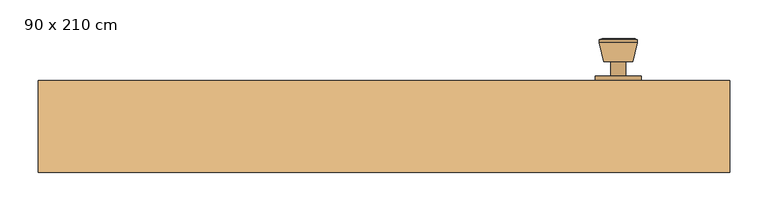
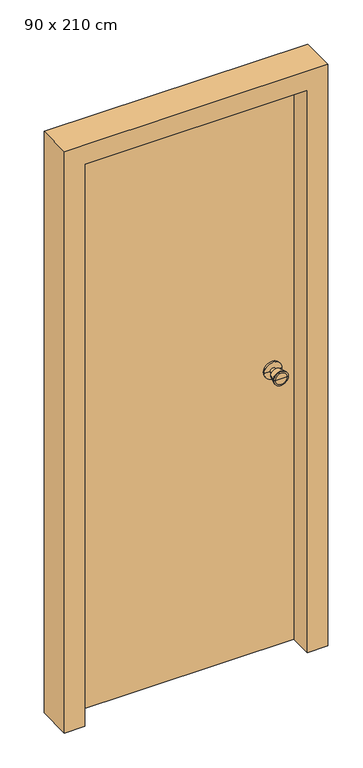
"""IFC4 building model written with IfcOpenShell, lengths in millimetres: door geometry, 單開-矩形- (1) : 90 x 210 cm."""

from ifc_helpers import new_model, si_unit, frame, origin, origin_with_axes, place, context, project, spatial, polyline, circle_curve, outline, extrude, faceted_brep, source, transform, mapped, element, save
from ifc_brep_helpers import plane_surface, cylinder_surface, revolved_surface, advanced_brep


def door_90_x_210_cm_cb2f5c37(model_context):
    return source(origin(), model_context, "Body", "SolidModel", [
        advanced_brep(
        [(335.0, -144.0, 1000.0), (335.0, -150.0, 1000.0), (275.0, -150.0, 1000.0), (275.0, -144.0, 1000.0), (315.0, -144.0, 1000.0), (295.0, -144.0, 1000.0), (315.0, -125.0, 1000.0), (295.0, -125.0, 1000.0), (323.6, -125.0, 1000.0), (286.4, -125.0, 1000.0), (330.0, -100.3, 1000.0), (280.0, -100.3, 1000.0), (330.0, -96.8, 1000.0), (280.0, -96.8, 1000.0), (325.5, -95.0, 1000.0), (284.5, -95.0, 1000.0), (305.0, -95.0, 1000.0), (305.0, -150.0, 1000.0)],
        [
            (0, 1),
            (1, 2, circle_curve(frame((305.0, -150.0, 1000.0), z_axis=(0.0, 1.0, 0.0), x_axis=(-1.0, 0.0, 0.0)), 30.0)),
            (2, 3),
            (3, 0, circle_curve(frame((305.0, -144.0, 1000.0), z_axis=(0.0, -1.0, 0.0), x_axis=(-1.0, 0.0, 0.0)), 30.0)),
            (2, 1, circle_curve(frame((305.0, -150.0, 1000.0), z_axis=(0.0, 1.0, 0.0), x_axis=(-1.0, 0.0, 0.0)), 30.0)),
            (0, 3, circle_curve(frame((305.0, -144.0, 1000.0), z_axis=(0.0, -1.0, 0.0), x_axis=(-1.0, 0.0, 0.0)), 30.0)),
            (4, 0),
            (3, 5),
            (5, 4, circle_curve(frame((305.0, -144.0, 1000.0), z_axis=(0.0, -1.0, 0.0), x_axis=(-1.0, 0.0, 0.0)), 10.0)),
            (4, 5, circle_curve(frame((305.0, -144.0, 1000.0), z_axis=(0.0, -1.0, 0.0), x_axis=(-1.0, 0.0, 0.0)), 10.0)),
            (6, 4),
            (5, 7),
            (7, 6, circle_curve(frame((305.0, -125.0, 1000.0), z_axis=(0.0, -1.0, 0.0), x_axis=(-1.0, 0.0, 0.0)), 10.0)),
            (6, 7, circle_curve(frame((305.0, -125.0, 1000.0), z_axis=(0.0, -1.0, 0.0), x_axis=(-1.0, 0.0, 0.0)), 10.0)),
            (8, 6),
            (7, 9),
            (9, 8, circle_curve(frame((305.0, -125.0, 1000.0), z_axis=(0.0, -1.0, 0.0), x_axis=(-1.0, 0.0, 0.0)), 18.6)),
            (8, 9, circle_curve(frame((305.0, -125.0, 1000.0), z_axis=(0.0, -1.0, 0.0), x_axis=(-1.0, 0.0, 0.0)), 18.6)),
            (10, 8),
            (9, 11),
            (11, 10, circle_curve(frame((305.0, -100.3, 1000.0), z_axis=(0.0, -1.0, 0.0), x_axis=(-1.0, 0.0, 0.0)), 25.0)),
            (10, 11, circle_curve(frame((305.0, -100.3, 1000.0), z_axis=(0.0, -1.0, 0.0), x_axis=(-1.0, 0.0, 0.0)), 25.0)),
            (12, 10),
            (11, 13),
            (13, 12, circle_curve(frame((305.0, -96.8, 1000.0), z_axis=(0.0, -1.0, 0.0), x_axis=(-1.0, 0.0, 0.0)), 25.0)),
            (12, 13, circle_curve(frame((305.0, -96.8, 1000.0), z_axis=(0.0, -1.0, 0.0), x_axis=(-1.0, 0.0, 0.0)), 25.0)),
            (14, 12),
            (13, 15),
            (15, 14, circle_curve(frame((305.0, -95.0, 1000.0), z_axis=(0.0, -1.0, 0.0), x_axis=(-1.0, 0.0, 0.0)), 20.5)),
            (14, 15, circle_curve(frame((305.0, -95.0, 1000.0), z_axis=(0.0, -1.0, 0.0), x_axis=(-1.0, 0.0, 0.0)), 20.5)),
            (16, 14),
            (15, 16),
            (1, 17),
            (17, 2),
        ],
        [
            cylinder_surface(frame((305.0, -210.0, 1000.0), z_axis=(0.0, 1.0, 0.0), x_axis=(-1.0, 0.0, 0.0)), 30.0),
            plane_surface(frame((305.0, -144.0, 1000.0), z_axis=(0.0, 1.0, 0.0), x_axis=(-1.0, 0.0, 0.0))),
            cylinder_surface(frame((305.0, -210.0, 1000.0), z_axis=(0.0, 1.0, 0.0), x_axis=(-1.0, 0.0, 0.0)), 10.0),
            plane_surface(frame((305.0, -125.0, 1000.0), z_axis=(0.0, -1.0, 0.0), x_axis=(-1.0, 0.0, 0.0))),
            revolved_surface(polyline([(286.4, -125.0, 1000.0), (280.0, -100.3, 1000.0)]), (305.0, -210.0, 1000.0), (0.0, 1.0, 0.0)),
            cylinder_surface(frame((305.0, -210.0, 1000.0), z_axis=(0.0, 1.0, 0.0), x_axis=(-1.0, 0.0, 0.0)), 25.0),
            revolved_surface(polyline([(280.0, -96.8, 1000.0), (284.5, -95.0, 1000.0)]), (305.0, -210.0, 1000.0), (0.0, 1.0, 0.0)),
            plane_surface(frame((305.0, -95.0, 1000.0), z_axis=(0.0, 1.0, 0.0), x_axis=(-1.0, 0.0, 0.0))),
            plane_surface(frame((305.0, -150.0, 1000.0), z_axis=(0.0, -1.0, 0.0), x_axis=(-1.0, 0.0, 0.0))),
        ],
        [
            (0, [[1, 2, 3, 4]]),
            (0, [[-3, 5, -1, 6]]),
            (1, [[7, -4, 8, 9]]),
            (1, [[-8, -6, -7, 10]]),
            (2, [[11, -9, 12, 13]]),
            (2, [[-12, -10, -11, 14]]),
            (3, [[15, -13, 16, 17]]),
            (3, [[-16, -14, -15, 18]]),
            (4, [[19, -17, 20, 21]]),
            (4, [[-20, -18, -19, 22]]),
            (5, [[23, -21, 24, 25]]),
            (5, [[-24, -22, -23, 26]]),
            (6, [[27, -25, 28, 29]]),
            (6, [[-28, -26, -27, 30]]),
            (7, [[31, -29, 32]]),
            (7, [[-32, -30, -31]]),
            (8, [[33, 34, -2]]),
            (8, [[-34, -33, -5]]),
        ],
    ),
        advanced_brep(
        [(335.0, -196.0, 1000.0), (275.0, -196.0, 1000.0), (275.0, -190.0, 1000.0), (335.0, -190.0, 1000.0), (315.0, -196.0, 1000.0), (295.0, -196.0, 1000.0), (315.0, -215.0, 1000.0), (295.0, -215.0, 1000.0), (323.6, -215.0, 1000.0), (286.4, -215.0, 1000.0), (330.0, -239.7, 1000.0), (280.0, -239.7, 1000.0), (330.0, -243.2, 1000.0), (280.0, -243.2, 1000.0), (325.5, -245.0, 1000.0), (284.5, -245.0, 1000.0), (305.0, -245.0, 1000.0), (305.0, -190.0, 1000.0)],
        [
            (0, 1, circle_curve(frame((305.0, -196.0, 1000.0), z_axis=(0.0, 1.0, 0.0), x_axis=(-1.0, 0.0, 0.0)), 30.0)),
            (1, 2),
            (2, 3, circle_curve(frame((305.0, -190.0, 1000.0), z_axis=(0.0, -1.0, 0.0), x_axis=(-1.0, 0.0, 0.0)), 30.0)),
            (3, 0),
            (1, 0, circle_curve(frame((305.0, -196.0, 1000.0), z_axis=(0.0, 1.0, 0.0), x_axis=(-1.0, 0.0, 0.0)), 30.0)),
            (3, 2, circle_curve(frame((305.0, -190.0, 1000.0), z_axis=(0.0, -1.0, 0.0), x_axis=(-1.0, 0.0, 0.0)), 30.0)),
            (4, 5, circle_curve(frame((305.0, -196.0, 1000.0), z_axis=(0.0, 1.0, 0.0), x_axis=(-1.0, 0.0, 0.0)), 10.0)),
            (5, 1),
            (0, 4),
            (5, 4, circle_curve(frame((305.0, -196.0, 1000.0), z_axis=(0.0, 1.0, 0.0), x_axis=(-1.0, 0.0, 0.0)), 10.0)),
            (6, 7, circle_curve(frame((305.0, -215.0, 1000.0), z_axis=(0.0, 1.0, 0.0), x_axis=(-1.0, 0.0, 0.0)), 10.0)),
            (7, 5),
            (4, 6),
            (7, 6, circle_curve(frame((305.0, -215.0, 1000.0), z_axis=(0.0, 1.0, 0.0), x_axis=(-1.0, 0.0, 0.0)), 10.0)),
            (8, 9, circle_curve(frame((305.0, -215.0, 1000.0), z_axis=(0.0, 1.0, 0.0), x_axis=(-1.0, 0.0, 0.0)), 18.6)),
            (9, 7),
            (6, 8),
            (9, 8, circle_curve(frame((305.0, -215.0, 1000.0), z_axis=(0.0, 1.0, 0.0), x_axis=(-1.0, 0.0, 0.0)), 18.6)),
            (10, 11, circle_curve(frame((305.0, -239.7, 1000.0), z_axis=(0.0, 1.0, 0.0), x_axis=(-1.0, 0.0, 0.0)), 25.0)),
            (11, 9),
            (8, 10),
            (11, 10, circle_curve(frame((305.0, -239.7, 1000.0), z_axis=(0.0, 1.0, 0.0), x_axis=(-1.0, 0.0, 0.0)), 25.0)),
            (12, 13, circle_curve(frame((305.0, -243.2, 1000.0), z_axis=(0.0, 1.0, 0.0), x_axis=(-1.0, 0.0, 0.0)), 25.0)),
            (13, 11),
            (10, 12),
            (13, 12, circle_curve(frame((305.0, -243.2, 1000.0), z_axis=(0.0, 1.0, 0.0), x_axis=(-1.0, 0.0, 0.0)), 25.0)),
            (14, 15, circle_curve(frame((305.0, -245.0, 1000.0), z_axis=(0.0, 1.0, 0.0), x_axis=(-1.0, 0.0, 0.0)), 20.5)),
            (15, 13),
            (12, 14),
            (15, 14, circle_curve(frame((305.0, -245.0, 1000.0), z_axis=(0.0, 1.0, 0.0), x_axis=(-1.0, 0.0, 0.0)), 20.5)),
            (16, 15),
            (14, 16),
            (2, 17),
            (17, 3),
        ],
        [
            cylinder_surface(frame((305.0, -130.0, 1000.0), z_axis=(0.0, -1.0, 0.0), x_axis=(-1.0, 0.0, 0.0)), 30.0),
            plane_surface(frame((305.0, -196.0, 1000.0), z_axis=(0.0, -1.0, 0.0), x_axis=(-1.0, 0.0, 0.0))),
            cylinder_surface(frame((305.0, -130.0, 1000.0), z_axis=(0.0, -1.0, 0.0), x_axis=(-1.0, 0.0, 0.0)), 10.0),
            plane_surface(frame((305.0, -215.0, 1000.0), z_axis=(0.0, 1.0, 0.0), x_axis=(-1.0, 0.0, 0.0))),
            revolved_surface(polyline([(286.4, -215.0, 1000.0), (280.0, -239.7, 1000.0)]), (305.0, -130.0, 1000.0), (0.0, -1.0, 0.0)),
            cylinder_surface(frame((305.0, -130.0, 1000.0), z_axis=(0.0, -1.0, 0.0), x_axis=(-1.0, 0.0, 0.0)), 25.0),
            revolved_surface(polyline([(280.0, -243.2, 1000.0), (284.5, -245.0, 1000.0)]), (305.0, -130.0, 1000.0), (0.0, -1.0, 0.0)),
            plane_surface(frame((305.0, -245.0, 1000.0), z_axis=(0.0, -1.0, 0.0), x_axis=(-1.0, 0.0, 0.0))),
            plane_surface(frame((305.0, -190.0, 1000.0), z_axis=(0.0, 1.0, 0.0), x_axis=(-1.0, 0.0, 0.0))),
        ],
        [
            (0, [[1, 2, 3, 4]]),
            (0, [[5, -4, 6, -2]]),
            (1, [[7, 8, -1, 9]]),
            (1, [[10, -9, -5, -8]]),
            (2, [[11, 12, -7, 13]]),
            (2, [[14, -13, -10, -12]]),
            (3, [[15, 16, -11, 17]]),
            (3, [[18, -17, -14, -16]]),
            (4, [[19, 20, -15, 21]]),
            (4, [[22, -21, -18, -20]]),
            (5, [[23, 24, -19, 25]]),
            (5, [[26, -25, -22, -24]]),
            (6, [[27, 28, -23, 29]]),
            (6, [[30, -29, -26, -28]]),
            (7, [[31, -27, 32]]),
            (7, [[-32, -30, -31]]),
            (8, [[-3, 33, 34]]),
            (8, [[-6, -34, -33]]),
        ],
    ),
        extrude(outline(polyline([(400.0, -190.0), (-400.0, -190.0), (-400.0, -150.0), (400.0, -150.0), (400.0, -190.0)])), origin_with_axes(), (0.0, 0.0, 1.0), 2050.0),
        faceted_brep([(400.0, -150.0, 0.0), (450.0, -150.0, 0.0), (450.0, -270.0, 0.0), (380.0, -270.0, 0.0), (380.0, -190.0, 0.0), (400.0, -190.0, 0.0), (400.0, -150.0, 2050.0), (-400.0, -150.0, 2050.0), (-400.0, -150.0, 0.0), (-450.0, -150.0, 0.0), (-450.0, -150.0, 2100.0), (450.0, -150.0, 2100.0), (450.0, -270.0, 2100.0), (-450.0, -270.0, 2100.0), (-450.0, -270.0, 0.0), (-380.0, -270.0, 0.0), (-380.0, -270.0, 2030.0), (380.0, -270.0, 2030.0), (380.0, -190.0, 2030.0), (-380.0, -190.0, 2030.0), (-380.0, -190.0, 0.0), (-400.0, -190.0, 0.0), (-400.0, -190.0, 2050.0), (400.0, -190.0, 2050.0)], [[[0, 1, 2, 3, 4, 5]], [[1, 0, 6, 7, 8, 9, 10, 11]], [[2, 1, 11, 12]], [[3, 2, 12, 13, 14, 15, 16, 17]], [[4, 3, 17, 18]], [[5, 4, 18, 19, 20, 21, 22, 23]], [[0, 5, 23, 6]], [[12, 11, 10, 13]], [[18, 17, 16, 19]], [[6, 23, 22, 7]], [[8, 21, 20, 15, 14, 9]], [[13, 10, 9, 14]], [[19, 16, 15, 20]], [[7, 22, 21, 8]]]),
    ])


if __name__ == "__main__":
    model = new_model("IFC4")
    model_context = context("Model", 3, world=origin())
    ifc_project = project(units=[si_unit("LENGTHUNIT", "METRE", prefix="MILLI")], contexts=[model_context])
    site = spatial("IfcSite", under=ifc_project)
    building = spatial("IfcBuilding", under=site)
    placement = place(None, origin())
    door_90_x_210_cm_shape = door_90_x_210_cm_cb2f5c37(model_context)
    element("IfcDoor", 1, ObjectType="單開-矩形- (1) : 90 x 210 cm", at=placement, inside=building, context=model_context, shape_type="MappedRepresentation", body=[
        mapped(door_90_x_210_cm_shape, transform((0.0, 0.0, 0.0), x_axis=(1.0, 0.0, 0.0), y_axis=(0.0, 1.0, 0.0), z_axis=(0.0, 0.0, 1.0))),
    ])
    save(model, "model.ifc")
